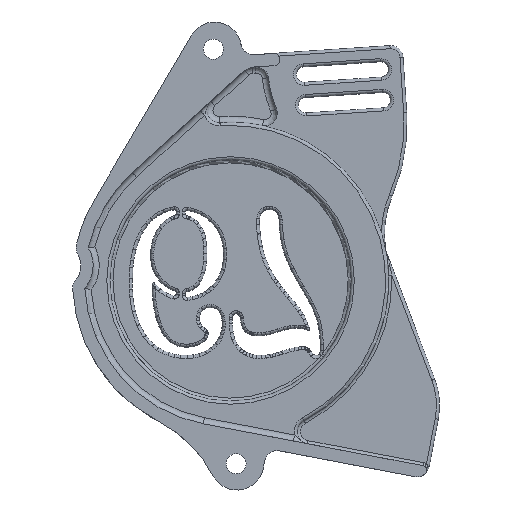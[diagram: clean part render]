
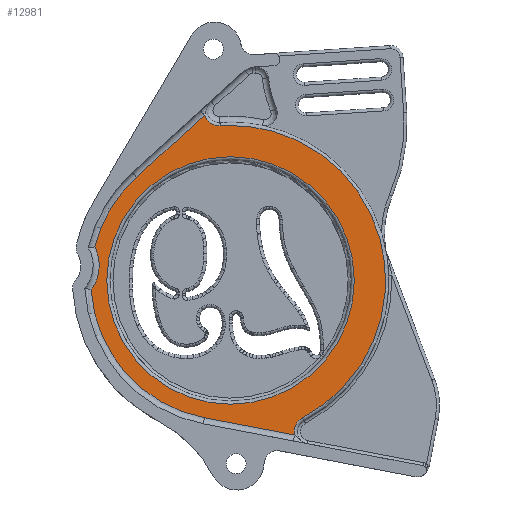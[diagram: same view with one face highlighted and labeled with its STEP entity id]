
A CAD part, front view. The second image highlights one B-rep face of the part: STEP entity #12981.
In plain terms, the highlighted planar face has unit normal (0, -1, 0).
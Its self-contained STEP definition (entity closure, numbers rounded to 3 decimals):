
#45=FACE_BOUND('',#2932,.T.);
#373=LINE('',#21118,#756);
#374=LINE('',#21195,#757);
#756=VECTOR('',#15614,10.);
#757=VECTOR('',#15619,10.);
#1148=PLANE('',#15383);
#2065=FACE_OUTER_BOUND('',#2931,.T.);
#2931=EDGE_LOOP('',(#11638,#11639,#11640,#11641,#11642,#11643,#11644,#11645));
#2932=EDGE_LOOP('',(#11646));
#3002=CIRCLE('',#13090,45.441);
#3003=CIRCLE('',#13092,45.441);
#3010=CIRCLE('',#13102,5.);
#3044=CIRCLE('',#13158,5.);
#3047=CIRCLE('',#13162,50.441);
#3303=CIRCLE('',#13581,13.458);
#4491=CIRCLE('',#15371,40.246);
#4575=VERTEX_POINT('',#21074);
#4576=VERTEX_POINT('',#21076);
#4577=VERTEX_POINT('',#21093);
#4578=VERTEX_POINT('',#21094);
#4580=VERTEX_POINT('',#21116);
#4582=VERTEX_POINT('',#21193);
#4585=VERTEX_POINT('',#21278);
#4626=VERTEX_POINT('',#21421);
#5643=VERTEX_POINT('',#25774);
#5756=EDGE_CURVE('',#4575,#4576,#3002,.T.);
#5758=EDGE_CURVE('',#4577,#4578,#3003,.T.);
#5763=EDGE_CURVE('',#4578,#4580,#373,.T.);
#5766=EDGE_CURVE('',#4582,#4575,#374,.T.);
#5772=EDGE_CURVE('',#4585,#4582,#3010,.T.);
#5835=EDGE_CURVE('',#4580,#4626,#3044,.T.);
#5838=EDGE_CURVE('',#4626,#4585,#3047,.T.);
#6263=EDGE_CURVE('',#4576,#4577,#3303,.T.);
#7636=EDGE_CURVE('',#5643,#5643,#4491,.T.);
#11638=ORIENTED_EDGE('',*,*,#6263,.F.);
#11639=ORIENTED_EDGE('',*,*,#5756,.F.);
#11640=ORIENTED_EDGE('',*,*,#5766,.F.);
#11641=ORIENTED_EDGE('',*,*,#5772,.F.);
#11642=ORIENTED_EDGE('',*,*,#5838,.F.);
#11643=ORIENTED_EDGE('',*,*,#5835,.F.);
#11644=ORIENTED_EDGE('',*,*,#5763,.F.);
#11645=ORIENTED_EDGE('',*,*,#5758,.F.);
#11646=ORIENTED_EDGE('',*,*,#7636,.F.);
#12981=ADVANCED_FACE('',(#2065,#45),#1148,.F.);
#13090=AXIS2_PLACEMENT_3D('',#21077,#15600,#15601);
#13092=AXIS2_PLACEMENT_3D('',#21095,#15604,#15605);
#13102=AXIS2_PLACEMENT_3D('',#21280,#15627,#15628);
#13158=AXIS2_PLACEMENT_3D('',#21422,#15766,#15767);
#13162=AXIS2_PLACEMENT_3D('',#21426,#15774,#15775);
#13581=AXIS2_PLACEMENT_3D('',#22419,#16770,#16771);
#15371=AXIS2_PLACEMENT_3D('',#25775,#20518,#20519);
#15383=AXIS2_PLACEMENT_3D('',#25846,#20543,#20544);
#15600=DIRECTION('center_axis',(0.,1.,0.));
#15601=DIRECTION('ref_axis',(-0.753,0.,-0.658));
#15604=DIRECTION('center_axis',(0.,1.,0.));
#15605=DIRECTION('ref_axis',(-0.863,0.,0.505));
#15614=DIRECTION('',(0.74,0.,0.672));
#15619=DIRECTION('',(-0.982,0.,0.187));
#15627=DIRECTION('center_axis',(0.,-1.,0.));
#15628=DIRECTION('ref_axis',(-0.989,0.,-0.146));
#15766=DIRECTION('center_axis',(0.,-1.,0.));
#15767=DIRECTION('ref_axis',(-0.92,0.,-0.392));
#15774=DIRECTION('center_axis',(0.,1.,0.));
#15775=DIRECTION('ref_axis',(0.963,0.,0.271));
#16770=DIRECTION('center_axis',(0.,-1.,0.));
#16771=DIRECTION('ref_axis',(0.996,0.,-0.086));
#20518=DIRECTION('center_axis',(0.,-1.,0.));
#20519=DIRECTION('ref_axis',(-1.,0.,0.));
#20543=DIRECTION('center_axis',(0.,1.,0.));
#20544=DIRECTION('ref_axis',(-1.,0.,0.));
#21074=CARTESIAN_POINT('',(-6.612,15.,-53.428));
#21076=CARTESIAN_POINT('',(-43.441,15.,-11.935));
#21077=CARTESIAN_POINT('Origin',(1.891,15.,-8.79));
#21093=CARTESIAN_POINT('',(-42.222,15.,2.117));
#21094=CARTESIAN_POINT('',(-28.667,15.,24.843));
#21095=CARTESIAN_POINT('Origin',(1.891,15.,-8.79));
#21116=CARTESIAN_POINT('',(-6.564,15.,44.926));
#21118=CARTESIAN_POINT('',(-28.667,15.,24.843));
#21193=CARTESIAN_POINT('',(22.725,15.,-59.017));
#21195=CARTESIAN_POINT('',(30.115,15.,-60.425));
#21278=CARTESIAN_POINT('',(25.282,15.,-53.48));
#21280=CARTESIAN_POINT('Origin',(27.6,15.,-57.91));
#21421=CARTESIAN_POINT('',(-1.492,15.,41.538));
#21422=CARTESIAN_POINT('Origin',(-1.827,15.,46.527));
#21426=CARTESIAN_POINT('Origin',(1.891,15.,-8.79));
#22419=CARTESIAN_POINT('Origin',(-54.251,15.,-3.918));
#25774=CARTESIAN_POINT('',(1.891,15.,-49.036));
#25775=CARTESIAN_POINT('Origin',(1.891,15.,-8.79));
#25846=CARTESIAN_POINT('Origin',(1.891,15.,-8.79));
